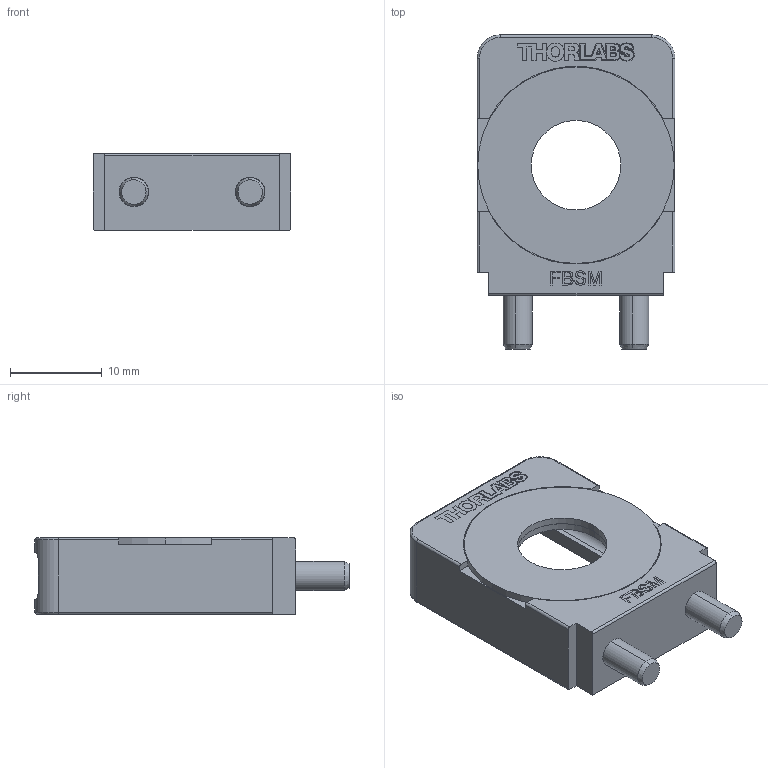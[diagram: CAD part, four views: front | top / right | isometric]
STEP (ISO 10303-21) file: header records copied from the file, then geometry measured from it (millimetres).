
FILE_DESCRIPTION (( 'STEP AP214' ), '1' );
FILE_NAME ('FBSM-E0W.STEP', '2025-12-05T13:35:09', ( '' ), ( '' ), 'SwSTEP 2.0', 'SolidWorks 2025', '' );
FILE_SCHEMA (( 'AUTOMOTIVE_DESIGN' ));
Length unit declared in the file: inch
Products named in the file (1): FBSM-E0W
Bounding box: 21.59 x 34.29 x 8.38 mm (x, y, z)
Volume: 1993.1 mm3; surface area: 3271.6 mm2
Topology: 5 solids, 5 shells, 159 faces, 566 edges, 443 vertices
Faces by surface type: plane 77, cylinder 50, cone 23, torus 4, bspline 3, sphere 2
Entity records: 7529 total; most frequent: CARTESIAN_POINT 2607, ORIENTED_EDGE 1124, DIRECTION 862, EDGE_CURVE 562, VERTEX_POINT 443, VECTOR 300, LINE 300, AXIS2_PLACEMENT_3D 281
